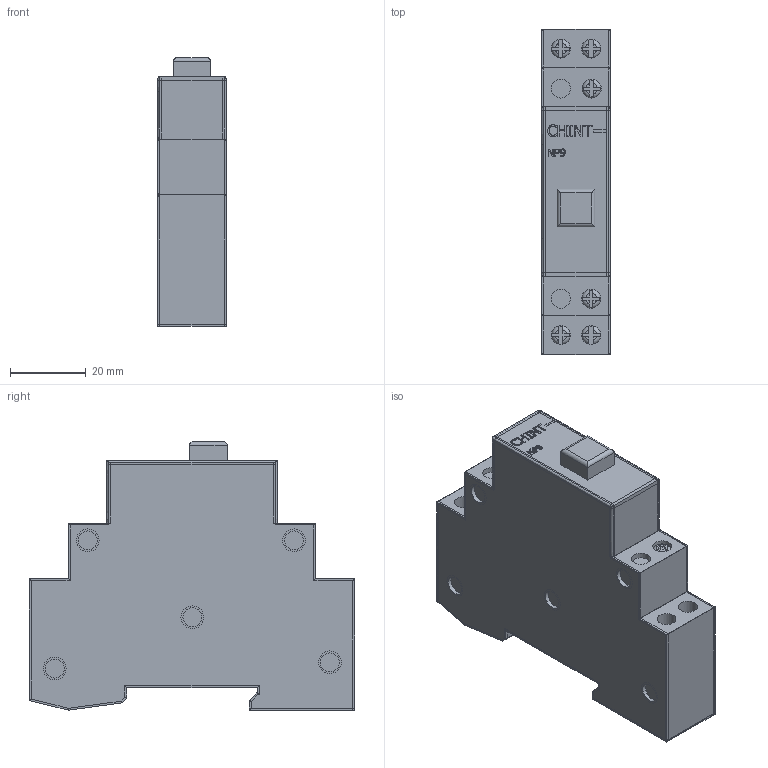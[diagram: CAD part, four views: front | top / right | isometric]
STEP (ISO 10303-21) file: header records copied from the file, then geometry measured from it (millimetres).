
FILE_DESCRIPTION(/* description */ (''),/* implementation_level */ '2;1');
FILE_NAME(/* name */ 'D:\CHINT\NP9\Кнопка NP9 (CHINT).stp',/* time_stamp */ '2017-09-30T15:51:18+04:00',/* author */ ('RSagdiev'),/* organization */ (''),/* preprocessor_version */ 'ST-DEVELOPER v16.5',/* originating_system */ 'Autodesk Inventor 2017',/* authorisation */ '');
FILE_SCHEMA (('CONFIG_CONTROL_DESIGN','AUTOMOTIVE_DESIGN { 1 0 10303 214 3 1 1 }'));
Length unit declared in the file: millimetre
Products named in the file (1): Кнопка NP9  (CHINT)
Bounding box: 18 x 86 x 71 mm (x, y, z)
Surface area: 32208.3 mm2
Topology: 19 solids, 19 shells, 443 faces, 1010 edges, 650 vertices
Faces by surface type: plane 273, cylinder 93, bspline 67, torus 6, sphere 4
Full cylindrical faces by diameter (mm): 5 x30, 6 x30
Entity records: 13421 total; most frequent: CARTESIAN_POINT 3929, ORIENTED_EDGE 1872, DIRECTION 1776, EDGE_CURVE 936, VERTEX_POINT 644, AXIS2_PLACEMENT_3D 605, EDGE_LOOP 576, LINE 566
